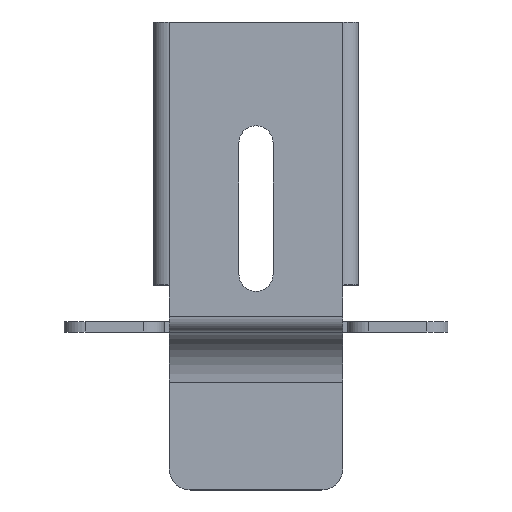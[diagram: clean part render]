
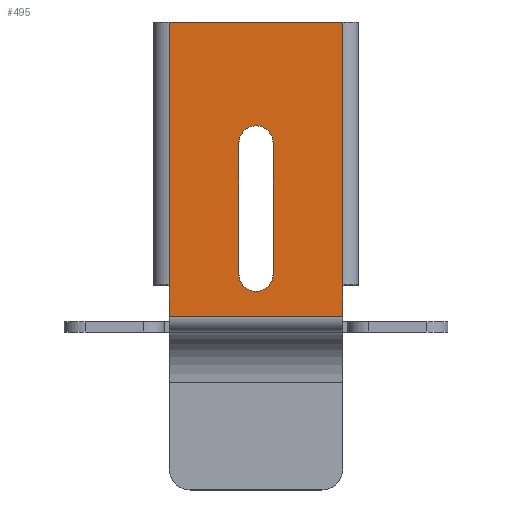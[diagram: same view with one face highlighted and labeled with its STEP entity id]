
A CAD part, top view. The second image highlights one B-rep face of the part: STEP entity #495.
In plain terms, the highlighted planar face has unit normal (0, 0, 1).
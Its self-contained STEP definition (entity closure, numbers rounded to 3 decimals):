
#114 = DIRECTION ( 'NONE',  ( 0., 0., -1. ) ) ;
#149 = PLANE ( 'NONE',  #1338 ) ;
#153 = CARTESIAN_POINT ( 'NONE',  ( 17.5, 25., 0. ) ) ;
#167 = DIRECTION ( 'NONE',  ( -1., 0., 0. ) ) ;
#302 = ORIENTED_EDGE ( 'NONE', *, *, #325, .F. ) ;
#303 = ORIENTED_EDGE ( 'NONE', *, *, #326, .F. ) ;
#324 = EDGE_CURVE ( 'NONE', #2330, #2515, #1841, .T. ) ;
#325 = EDGE_CURVE ( 'NONE', #1486, #2330, #1847, .T. ) ;
#326 = EDGE_CURVE ( 'NONE', #2517, #1486, #1849, .T. ) ;
#327 = EDGE_CURVE ( 'NONE', #2515, #2517, #1850, .T. ) ;
#328 = EDGE_CURVE ( 'NONE', #2329, #2520, #1852, .T. ) ;
#329 = EDGE_CURVE ( 'NONE', #2516, #2520, #1845, .T. ) ;
#331 = EDGE_CURVE ( 'NONE', #2516, #2523, #1857, .T. ) ;
#332 = EDGE_CURVE ( 'NONE', #2523, #2356, #1858, .T. ) ;
#333 = EDGE_CURVE ( 'NONE', #2356, #2357, #1860, .T. ) ;
#334 = EDGE_CURVE ( 'NONE', #2357, #2329, #1862, .T. ) ;
#495 = ADVANCED_FACE ( 'NONE', ( #2629, #2637 ), #149, .F. ) ;
#708 = CARTESIAN_POINT ( 'NONE',  ( 16.5, -31., 0. ) ) ;
#710 = CARTESIAN_POINT ( 'NONE',  ( -16.5, -25., 0. ) ) ;
#715 = CARTESIAN_POINT ( 'NONE',  ( 3.25, -23., 0. ) ) ;
#716 = CARTESIAN_POINT ( 'NONE',  ( -16.5, -31., 0. ) ) ;
#717 = CARTESIAN_POINT ( 'NONE',  ( -3.25, -23., 0. ) ) ;
#731 = CARTESIAN_POINT ( 'NONE',  ( 16.5, 25., 0. ) ) ;
#732 = CARTESIAN_POINT ( 'NONE',  ( 16.5, -25., 0. ) ) ;
#763 = CARTESIAN_POINT ( 'NONE',  ( -3.25, 2., 0. ) ) ;
#764 = CARTESIAN_POINT ( 'NONE',  ( -16.5, 25., 0. ) ) ;
#827 = CARTESIAN_POINT ( 'NONE',  ( 3.25, 2., 0. ) ) ;
#1050 = CARTESIAN_POINT ( 'NONE',  ( 16.5, -25., 0. ) ) ;
#1055 = DIRECTION ( 'NONE',  ( 0., 1., 0. ) ) ;
#1059 = CARTESIAN_POINT ( 'NONE',  ( 16.5, -31., 0. ) ) ;
#1121 = DIRECTION ( 'NONE',  ( 0., 1., 0. ) ) ;
#1123 = CARTESIAN_POINT ( 'NONE',  ( 0., 2., 0. ) ) ;
#1127 = CARTESIAN_POINT ( 'NONE',  ( -16.5, -31., 0. ) ) ;
#1142 = DIRECTION ( 'NONE',  ( 0., 0., 1. ) ) ;
#1145 = CARTESIAN_POINT ( 'NONE',  ( 3.25, 2., 0. ) ) ;
#1159 = CARTESIAN_POINT ( 'NONE',  ( 0., -23., 0. ) ) ;
#1166 = CARTESIAN_POINT ( 'NONE',  ( -16.5, 25., 0. ) ) ;
#1167 = CARTESIAN_POINT ( 'NONE',  ( -16.5, -31., 0. ) ) ;
#1169 = DIRECTION ( 'NONE',  ( 1., 0., 0. ) ) ;
#1192 = DIRECTION ( 'NONE',  ( 1., 0., 0. ) ) ;
#1200 = DIRECTION ( 'NONE',  ( 0., 0., 1. ) ) ;
#1203 = DIRECTION ( 'NONE',  ( 0., -1., 0. ) ) ;
#1208 = DIRECTION ( 'NONE',  ( 1., 0., 0. ) ) ;
#1213 = DIRECTION ( 'NONE',  ( 0., -1., 0. ) ) ;
#1230 = DIRECTION ( 'NONE',  ( 0., 1., 0. ) ) ;
#1255 = CARTESIAN_POINT ( 'NONE',  ( -3.25, 2., 0. ) ) ;
#1328 = DIRECTION ( 'NONE',  ( -1., 0., 0. ) ) ;
#1329 = CARTESIAN_POINT ( 'NONE',  ( -17.5, 25., 0. ) ) ;
#1331 = DIRECTION ( 'NONE',  ( 0., 1., 0. ) ) ;
#1338 = AXIS2_PLACEMENT_3D ( 'NONE', #153, #114, #167 ) ;
#1388 = AXIS2_PLACEMENT_3D ( 'NONE', #1159, #1142, #1208 ) ;
#1389 = AXIS2_PLACEMENT_3D ( 'NONE', #1123, #1200, #1192 ) ;
#1486 = VERTEX_POINT ( 'NONE', #827 ) ;
#1841 = LINE ( 'NONE', #1255, #1848 ) ;
#1845 = LINE ( 'NONE', #1167, #1856 ) ;
#1847 = CIRCLE ( 'NONE', #1389, 3.25 ) ;
#1848 = VECTOR ( 'NONE', #1213, 1000. ) ;
#1849 = LINE ( 'NONE', #1145, #1851 ) ;
#1850 = CIRCLE ( 'NONE', #1388, 3.25 ) ;
#1851 = VECTOR ( 'NONE', #1230, 1000. ) ;
#1852 = LINE ( 'NONE', #1166, #1854 ) ;
#1854 = VECTOR ( 'NONE', #1203, 1000. ) ;
#1856 = VECTOR ( 'NONE', #1121, 1000. ) ;
#1857 = LINE ( 'NONE', #1127, #1859 ) ;
#1858 = LINE ( 'NONE', #1059, #1861 ) ;
#1859 = VECTOR ( 'NONE', #1169, 1000. ) ;
#1860 = LINE ( 'NONE', #1050, #1863 ) ;
#1861 = VECTOR ( 'NONE', #1055, 1000. ) ;
#1862 = LINE ( 'NONE', #1329, #1865 ) ;
#1863 = VECTOR ( 'NONE', #1331, 1000. ) ;
#1865 = VECTOR ( 'NONE', #1328, 1000. ) ;
#2329 = VERTEX_POINT ( 'NONE', #764 ) ;
#2330 = VERTEX_POINT ( 'NONE', #763 ) ;
#2356 = VERTEX_POINT ( 'NONE', #732 ) ;
#2357 = VERTEX_POINT ( 'NONE', #731 ) ;
#2515 = VERTEX_POINT ( 'NONE', #717 ) ;
#2516 = VERTEX_POINT ( 'NONE', #716 ) ;
#2517 = VERTEX_POINT ( 'NONE', #715 ) ;
#2520 = VERTEX_POINT ( 'NONE', #710 ) ;
#2523 = VERTEX_POINT ( 'NONE', #708 ) ;
#2559 = ORIENTED_EDGE ( 'NONE', *, *, #334, .T. ) ;
#2560 = ORIENTED_EDGE ( 'NONE', *, *, #331, .T. ) ;
#2561 = ORIENTED_EDGE ( 'NONE', *, *, #329, .F. ) ;
#2566 = ORIENTED_EDGE ( 'NONE', *, *, #333, .T. ) ;
#2568 = ORIENTED_EDGE ( 'NONE', *, *, #332, .T. ) ;
#2571 = ORIENTED_EDGE ( 'NONE', *, *, #328, .T. ) ;
#2573 = ORIENTED_EDGE ( 'NONE', *, *, #327, .F. ) ;
#2578 = ORIENTED_EDGE ( 'NONE', *, *, #324, .F. ) ;
#2629 = FACE_BOUND ( 'NONE', #2776, .T. ) ;
#2637 = FACE_OUTER_BOUND ( 'NONE', #2770, .T. ) ;
#2770 = EDGE_LOOP ( 'NONE', ( #2571, #2561, #2560, #2568, #2566, #2559 ) ) ;
#2776 = EDGE_LOOP ( 'NONE', ( #2578, #302, #303, #2573 ) ) ;
